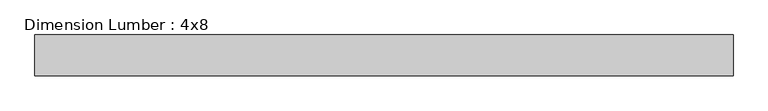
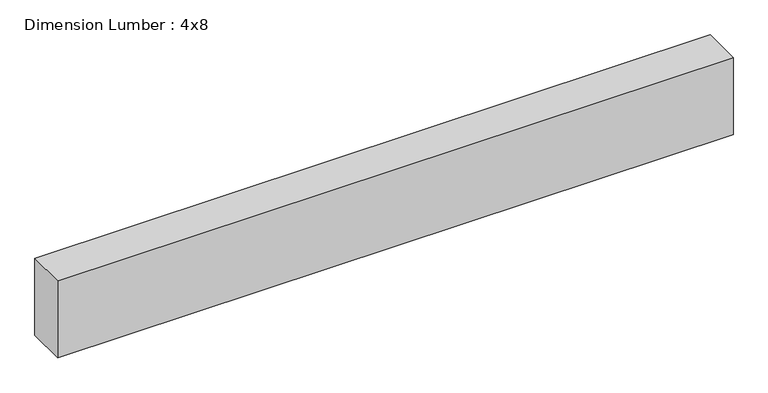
"""IFC4 building model written with IfcOpenShell, lengths in millimetres: beam geometry, Dimension Lumber : 4x8."""

from ifc_helpers import new_model, si_unit, frame, origin, place, context, project, spatial, polyline, outline, extrude, source, transform, mapped, element, save


def dimension_lumber_4x8_cfcc723d(model_context):
    return source(origin(), model_context, "Body", "SweptSolid", [
        extrude(outline(polyline([(762.0, 44.45), (762.0, -44.45), (-762.0, -44.45), (-762.0, 44.45), (762.0, 44.45)])), frame((0.0, 0.0, -92.075), z_axis=(0.0, 0.0, 1.0), x_axis=(1.0, 0.0, 0.0)), (0.0, 0.0, 1.0), 184.15),
    ])


if __name__ == "__main__":
    model = new_model("IFC4")
    model_context = context("Model", 3, world=origin())
    ifc_project = project(units=[si_unit("LENGTHUNIT", "METRE", prefix="MILLI")], contexts=[model_context])
    site = spatial("IfcSite", under=ifc_project)
    building = spatial("IfcBuilding", under=site)
    placement = place(None, origin())
    dimension_lumber_4x8_shape = dimension_lumber_4x8_cfcc723d(model_context)
    element("IfcBeam", 1, ObjectType="Dimension Lumber : 4x8", at=placement, inside=building, context=model_context, shape_type="MappedRepresentation", body=[
        mapped(dimension_lumber_4x8_shape, transform((0.0, 0.0, 0.0), x_axis=(1.0, 0.0, 0.0), y_axis=(0.0, 1.0, 0.0), z_axis=(0.0, 0.0, 1.0))),
    ])
    save(model, "model.ifc")
